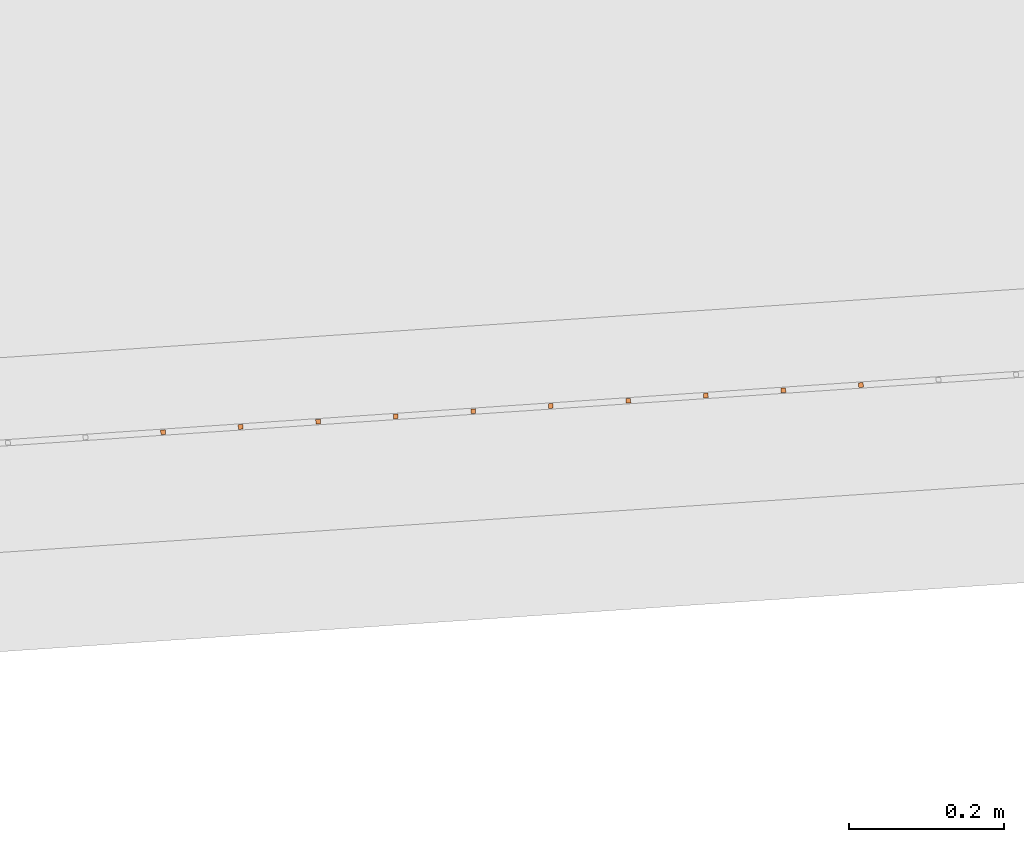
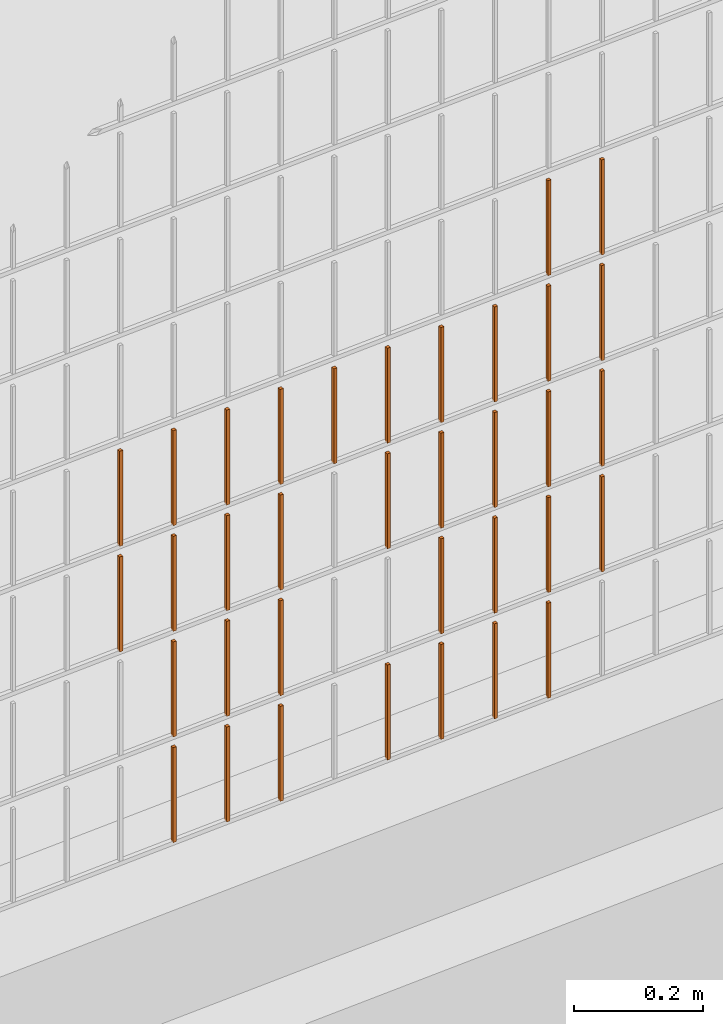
# One storey, part 259 of 1809: 35 proxies, 1 element without a shape of its own.
"""IFC2X3 building model written with IfcOpenShell, lengths in millimetres."""

from ifc_helpers import new_model, entity, si_unit, converted_unit, derived_unit, money_unit, direction, frame, origin_with_axes, place, context, subcontext, project, spatial, faceted_brep, source, transform, mapped, material, type_object, element, aggregate, save


model = new_model("IFC2X3")

# Units and contexts
model_context = context("Model", 3, precision=0.01, world=origin_with_axes(), true_north=direction((0.0, 1.0)))
body_context = subcontext(model_context, "Body", "Model", "MODEL_VIEW")
ifc_project = project(units=[si_unit("LENGTHUNIT", "METRE", prefix="MILLI"), si_unit("AREAUNIT", "SQUARE_METRE"), si_unit("VOLUMEUNIT", "CUBIC_METRE"), converted_unit("PLANEANGLEUNIT", "DEGREE", entity("IfcPlaneAngleMeasure", 0.0174532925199), si_unit("PLANEANGLEUNIT", "RADIAN"), dimensions=[0, 0, 0, 0, 0, 0, 0]), si_unit("SOLIDANGLEUNIT", "STERADIAN"), money_unit("EUR"), converted_unit("TIMEUNIT", "Year", entity("IfcTimeMeasure", 31556926.0), si_unit("TIMEUNIT", "SECOND"), dimensions=[0, 0, 1, 0, 0, 0, 0]), si_unit("MASSUNIT", "GRAM", prefix="KILO"), si_unit("THERMODYNAMICTEMPERATUREUNIT", "DEGREE_CELSIUS"), si_unit("LUMINOUSINTENSITYUNIT", "LUMEN"), si_unit("ENERGYUNIT", "JOULE", prefix="MEGA"), derived_unit("THERMALCONDUCTANCEUNIT", [(si_unit("POWERUNIT", "WATT"), 1), (si_unit("LENGTHUNIT", "METRE"), -1), (si_unit("THERMODYNAMICTEMPERATUREUNIT", "KELVIN"), -1)]), derived_unit("SPECIFICHEATCAPACITYUNIT", [(si_unit("ENERGYUNIT", "JOULE"), 1), (si_unit("MASSUNIT", "GRAM", prefix="KILO"), -1), (si_unit("THERMODYNAMICTEMPERATUREUNIT", "KELVIN"), -1)]), derived_unit("MASSDENSITYUNIT", [(si_unit("MASSUNIT", "GRAM", prefix="KILO"), 1), (si_unit("VOLUMEUNIT", "CUBIC_METRE"), -1)])], contexts=[model_context])

# Site, building, storey
site_placement = place(None, origin_with_axes())
site = spatial("IfcSite", under=ifc_project, at=site_placement, Name="Politse- ja Piirivalveameti ning Päästeameti ühishoone", CompositionType="ELEMENT")
building_placement = place(site_placement, origin_with_axes())
building = spatial("IfcBuilding", under=site, at=building_placement, Name="Politse- ja Piirivalveameti ning Päästeameti ühishoone", CompositionType="ELEMENT")
storey_placement = place(building_placement, origin_with_axes())
storey = spatial("IfcBuildingStorey", under=building, at=storey_placement, Name="Esimene korrus", CompositionType="ELEMENT", Elevation=0.0)

# Proxies
building_element_proxy_type_1 = type_object("IfcBuildingElementProxyType", Name="Railing Type", PredefinedType="NOTDEFINED")
proxy_1_placement = place(storey_placement, frame((89252.001212, -29183.4766571, 203.661247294), z_axis=(0.0, 0.0, 1.0), x_axis=(1.0, 0.0, 0.0)))
proxy_1 = element("IfcBuildingElementProxy", 1, at=proxy_1_placement, inside=storey, type_object=building_element_proxy_type_1, Name="PIIRDEAED")
ifc_material = material(Name="ET-03_Raud")
building_element_proxy_type_2 = type_object("IfcBuildingElementProxyType", Name="IfcBuildingElementProxy", PredefinedType="NOTDEFINED")
shared_shape_1 = source(origin_with_axes(), body_context, "Body", "Brep", [
    faceted_brep([(3.0, 3.0, -0.000752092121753), (-3.0, 3.0, -0.000752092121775), (-3.0, 3.0, 179.99926046), (3.0, 3.0, 179.99926046), (3.0, -3.0, 0.000752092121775), (-3.0, -3.0, 0.000752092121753), (-3.0, -3.0, 180.000764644), (3.0, -3.0, 180.000764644)], [[[0, 1, 2, 3]], [[0, 4, 5, 1]], [[1, 5, 6, 2]], [[3, 2, 6, 7]], [[4, 0, 3, 7]], [[5, 4, 7, 6]]]),
])
proxy_2_placement = place(proxy_1_placement, frame((-58293.8566608, -21235.304786, 12.5869682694), z_axis=(0.0, 0.0, 1.0), x_axis=(1.0, 0.0, 0.0)))
proxy_2 = element("IfcBuildingElementProxy", 2, at=proxy_2_placement, type_object=building_element_proxy_type_2, material=ifc_material, Name="BALUSTER - 001", context=body_context, shape_type="MappedRepresentation", body=[
    mapped(shared_shape_1, transform((0.0, 0.0, 0.0), x_axis=(-0.0673926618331, 0.997726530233, 0.0), y_axis=(-0.997726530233, -0.0673926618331, 0.0), z_axis=(0.0, 0.0, 1.0))),
])
shared_shape_2 = source(origin_with_axes(), body_context, "Body", "Brep", [
    faceted_brep([(3.0, 3.0, -0.000752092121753), (-3.0, 3.0, -0.000752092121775), (-3.0, 3.0, 179.99926046), (3.0, 3.0, 179.99926046), (3.0, -3.0, 0.000752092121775), (-3.0, -3.0, 0.000752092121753), (-3.0, -3.0, 180.000764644), (3.0, -3.0, 180.000764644)], [[[0, 1, 2, 3]], [[0, 4, 5, 1]], [[1, 5, 6, 2]], [[3, 2, 6, 7]], [[4, 0, 3, 7]], [[5, 4, 7, 6]]]),
])
proxy_3_placement = place(proxy_1_placement, frame((-58393.6293138, -21242.0440521, 12.561898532), z_axis=(0.0, 0.0, 1.0), x_axis=(1.0, 0.0, 0.0)))
proxy_3 = element("IfcBuildingElementProxy", 3, at=proxy_3_placement, type_object=building_element_proxy_type_2, material=ifc_material, Name="BALUSTER - 001", context=body_context, shape_type="MappedRepresentation", body=[
    mapped(shared_shape_2, transform((0.0, 0.0, 0.0), x_axis=(-0.0673926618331, 0.997726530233, 0.0), y_axis=(-0.997726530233, -0.0673926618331, 0.0), z_axis=(0.0, 0.0, 1.0))),
])
proxy_4_placement = place(proxy_1_placement, frame((-58493.4019668, -21248.7833183, 12.5368287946), z_axis=(0.0, 0.0, 1.0), x_axis=(1.0, 0.0, 0.0)))
proxy_4 = element("IfcBuildingElementProxy", 4, at=proxy_4_placement, type_object=building_element_proxy_type_2, material=ifc_material, Name="BALUSTER - 001", context=body_context, shape_type="MappedRepresentation", body=[
    mapped(shared_shape_2, transform((0.0, 0.0, 0.0), x_axis=(-0.0673926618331, 0.997726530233, 0.0), y_axis=(-0.997726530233, -0.0673926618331, 0.0), z_axis=(0.0, 0.0, 1.0))),
])
shared_shape_3 = source(origin_with_axes(), body_context, "Body", "Brep", [
    faceted_brep([(3.0, 3.0, -0.000752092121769), (-3.0, 3.0, -0.000752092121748), (-3.0, 3.0, 179.99926046), (3.0, 3.0, 179.99926046), (3.0, -3.0, 0.000752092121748), (-3.0, -3.0, 0.000752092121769), (-3.0, -3.0, 180.000764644), (3.0, -3.0, 180.000764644)], [[[0, 1, 2, 3]], [[0, 4, 5, 1]], [[1, 5, 6, 2]], [[3, 2, 6, 7]], [[4, 0, 3, 7]], [[5, 4, 7, 6]]]),
])
proxy_5_placement = place(proxy_1_placement, frame((-58593.1746199, -21255.5225845, 12.5117590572), z_axis=(0.0, 0.0, 1.0), x_axis=(1.0, 0.0, 0.0)))
proxy_5 = element("IfcBuildingElementProxy", 5, at=proxy_5_placement, type_object=building_element_proxy_type_2, material=ifc_material, Name="BALUSTER - 001", context=body_context, shape_type="MappedRepresentation", body=[
    mapped(shared_shape_3, transform((0.0, 0.0, 0.0), x_axis=(-0.0673926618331, 0.997726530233, 0.0), y_axis=(-0.997726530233, -0.0673926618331, 0.0), z_axis=(0.0, 0.0, 1.0))),
])
shared_shape_4 = source(origin_with_axes(), body_context, "Body", "Brep", [
    faceted_brep([(3.0, 3.0, -0.000752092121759), (-3.0, 3.0, -0.000752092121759), (-3.0, 3.0, 179.99926046), (3.0, 3.0, 179.99926046), (3.0, -3.0, 0.000752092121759), (-3.0, -3.0, 0.000752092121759), (-3.0, -3.0, 180.000764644), (3.0, -3.0, 180.000764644)], [[[0, 1, 2, 3]], [[0, 4, 5, 1]], [[1, 5, 6, 2]], [[3, 2, 6, 7]], [[4, 0, 3, 7]], [[5, 4, 7, 6]]]),
])
proxy_6_placement = place(proxy_1_placement, frame((-58792.7199259, -21269.0011169, 12.4616195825), z_axis=(0.0, 0.0, 1.0), x_axis=(1.0, 0.0, 0.0)))
proxy_6 = element("IfcBuildingElementProxy", 6, at=proxy_6_placement, type_object=building_element_proxy_type_2, material=ifc_material, Name="BALUSTER - 001", context=body_context, shape_type="MappedRepresentation", body=[
    mapped(shared_shape_4, transform((0.0, 0.0, 0.0), x_axis=(-0.0673926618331, 0.997726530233, 0.0), y_axis=(-0.997726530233, -0.0673926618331, 0.0), z_axis=(0.0, 0.0, 1.0))),
])
proxy_7_placement = place(proxy_1_placement, frame((-58792.7199259, -21269.0011169, 212.461619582), z_axis=(0.0, 0.0, 1.0), x_axis=(1.0, 0.0, 0.0)))
proxy_7 = element("IfcBuildingElementProxy", 7, at=proxy_7_placement, type_object=building_element_proxy_type_2, material=ifc_material, Name="BALUSTER - 001", context=body_context, shape_type="MappedRepresentation", body=[
    mapped(shared_shape_4, transform((0.0, 0.0, 0.0), x_axis=(-0.0673926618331, 0.997726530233, 0.0), y_axis=(-0.997726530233, -0.0673926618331, 0.0), z_axis=(0.0, 0.0, 1.0))),
])
shared_shape_5 = source(origin_with_axes(), body_context, "Body", "Brep", [
    faceted_brep([(3.0, 3.0, -0.000752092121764), (-3.0, 3.0, -0.000752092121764), (-3.0, 3.0, 179.99926046), (3.0, 3.0, 179.99926046), (3.0, -3.0, 0.000752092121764), (-3.0, -3.0, 0.000752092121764), (-3.0, -3.0, 180.000764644), (3.0, -3.0, 180.000764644)], [[[0, 1, 2, 3]], [[0, 4, 5, 1]], [[1, 5, 6, 2]], [[3, 2, 6, 7]], [[4, 0, 3, 7]], [[5, 4, 7, 6]]]),
])
proxy_8_placement = place(proxy_1_placement, frame((-58892.4925789, -21275.7403831, 12.4365498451), z_axis=(0.0, 0.0, 1.0), x_axis=(1.0, 0.0, 0.0)))
proxy_8 = element("IfcBuildingElementProxy", 8, at=proxy_8_placement, type_object=building_element_proxy_type_2, material=ifc_material, Name="BALUSTER - 001", context=body_context, shape_type="MappedRepresentation", body=[
    mapped(shared_shape_5, transform((0.0, 0.0, 0.0), x_axis=(-0.0673926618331, 0.997726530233, 0.0), y_axis=(-0.997726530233, -0.0673926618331, 0.0), z_axis=(0.0, 0.0, 1.0))),
])
shared_shape_6 = source(origin_with_axes(), body_context, "Body", "Brep", [
    faceted_brep([(3.0, 3.0, -0.000752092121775), (-3.0, 3.0, -0.000752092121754), (-3.0, 3.0, 179.99926046), (3.0, 3.0, 179.99926046), (3.0, -3.0, 0.000752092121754), (-3.0, -3.0, 0.000752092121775), (-3.0, -3.0, 180.000764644), (3.0, -3.0, 180.000764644)], [[[0, 1, 2, 3]], [[0, 4, 5, 1]], [[1, 5, 6, 2]], [[3, 2, 6, 7]], [[4, 0, 3, 7]], [[5, 4, 7, 6]]]),
])
proxy_9_placement = place(proxy_1_placement, frame((-58992.265232, -21282.4796492, 12.4114801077), z_axis=(0.0, 0.0, 1.0), x_axis=(1.0, 0.0, 0.0)))
proxy_9 = element("IfcBuildingElementProxy", 9, at=proxy_9_placement, type_object=building_element_proxy_type_2, material=ifc_material, Name="BALUSTER - 001", context=body_context, shape_type="MappedRepresentation", body=[
    mapped(shared_shape_6, transform((0.0, 0.0, 0.0), x_axis=(-0.0673926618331, 0.997726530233, 0.0), y_axis=(-0.997726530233, -0.0673926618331, 0.0), z_axis=(0.0, 0.0, 1.0))),
])
shared_shape_7 = source(origin_with_axes(), body_context, "Body", "Brep", [
    faceted_brep([(3.0, 3.0, -0.000752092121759), (-3.0, 3.0, -0.000752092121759), (-3.0, 3.0, 179.99926046), (3.0, 3.0, 179.99926046), (3.0, -3.0, 0.000752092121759), (-3.0, -3.0, 0.000752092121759), (-3.0, -3.0, 180.000764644), (3.0, -3.0, 180.000764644)], [[[0, 1, 2, 3]], [[0, 4, 5, 1]], [[1, 5, 6, 2]], [[3, 2, 6, 7]], [[4, 0, 3, 7]], [[5, 4, 7, 6]]]),
])
proxy_10_placement = place(proxy_1_placement, frame((-58194.0840078, -21228.5655198, 212.612038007), z_axis=(0.0, 0.0, 1.0), x_axis=(1.0, 0.0, 0.0)))
proxy_10 = element("IfcBuildingElementProxy", 10, at=proxy_10_placement, type_object=building_element_proxy_type_2, material=ifc_material, Name="BALUSTER - 001", context=body_context, shape_type="MappedRepresentation", body=[
    mapped(shared_shape_7, transform((0.0, 0.0, 0.0), x_axis=(-0.0673926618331, 0.997726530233, 0.0), y_axis=(-0.997726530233, -0.0673926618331, 0.0), z_axis=(0.0, 0.0, 1.0))),
])
shared_shape_8 = source(origin_with_axes(), body_context, "Body", "Brep", [
    faceted_brep([(3.0, 3.0, -0.000752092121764), (-3.0, 3.0, -0.000752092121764), (-3.0, 3.0, 179.99926046), (3.0, 3.0, 179.99926046), (3.0, -3.0, 0.000752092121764), (-3.0, -3.0, 0.000752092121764), (-3.0, -3.0, 180.000764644), (3.0, -3.0, 180.000764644)], [[[0, 1, 2, 3]], [[0, 4, 5, 1]], [[1, 5, 6, 2]], [[3, 2, 6, 7]], [[4, 0, 3, 7]], [[5, 4, 7, 6]]]),
])
proxy_11_placement = place(proxy_1_placement, frame((-58892.4925789, -21275.7403831, 212.436549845), z_axis=(0.0, 0.0, 1.0), x_axis=(1.0, 0.0, 0.0)))
proxy_11 = element("IfcBuildingElementProxy", 11, at=proxy_11_placement, type_object=building_element_proxy_type_2, material=ifc_material, Name="BALUSTER - 001", context=body_context, shape_type="MappedRepresentation", body=[
    mapped(shared_shape_8, transform((0.0, 0.0, 0.0), x_axis=(-0.0673926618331, 0.997726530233, 0.0), y_axis=(-0.997726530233, -0.0673926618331, 0.0), z_axis=(0.0, 0.0, 1.0))),
])
shared_shape_9 = source(origin_with_axes(), body_context, "Body", "Brep", [
    faceted_brep([(3.0, 3.0, -0.000752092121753), (-3.0, 3.0, -0.000752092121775), (-3.0, 3.0, 179.99926046), (3.0, 3.0, 179.99926046), (3.0, -3.0, 0.000752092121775), (-3.0, -3.0, 0.000752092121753), (-3.0, -3.0, 180.000764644), (3.0, -3.0, 180.000764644)], [[[0, 1, 2, 3]], [[0, 4, 5, 1]], [[1, 5, 6, 2]], [[3, 2, 6, 7]], [[4, 0, 3, 7]], [[5, 4, 7, 6]]]),
])
proxy_12_placement = place(proxy_1_placement, frame((-58293.8566608, -21235.304786, 212.586968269), z_axis=(0.0, 0.0, 1.0), x_axis=(1.0, 0.0, 0.0)))
proxy_12 = element("IfcBuildingElementProxy", 12, at=proxy_12_placement, type_object=building_element_proxy_type_2, material=ifc_material, Name="BALUSTER - 001", context=body_context, shape_type="MappedRepresentation", body=[
    mapped(shared_shape_9, transform((0.0, 0.0, 0.0), x_axis=(-0.0673926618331, 0.997726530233, 0.0), y_axis=(-0.997726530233, -0.0673926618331, 0.0), z_axis=(0.0, 0.0, 1.0))),
])
proxy_13_placement = place(proxy_1_placement, frame((-58293.8566608, -21235.304786, 412.586968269), z_axis=(0.0, 0.0, 1.0), x_axis=(1.0, 0.0, 0.0)))
proxy_13 = element("IfcBuildingElementProxy", 13, at=proxy_13_placement, type_object=building_element_proxy_type_2, material=ifc_material, Name="BALUSTER - 001", context=body_context, shape_type="MappedRepresentation", body=[
    mapped(shared_shape_9, transform((0.0, 0.0, 0.0), x_axis=(-0.0673926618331, 0.997726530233, 0.0), y_axis=(-0.997726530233, -0.0673926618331, 0.0), z_axis=(0.0, 0.0, 1.0))),
])
shared_shape_10 = source(origin_with_axes(), body_context, "Body", "Brep", [
    faceted_brep([(3.0, 3.0, -0.000752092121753), (-3.0, 3.0, -0.000752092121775), (-3.0, 3.0, 179.99926046), (3.0, 3.0, 179.99926046), (3.0, -3.0, 0.000752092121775), (-3.0, -3.0, 0.000752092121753), (-3.0, -3.0, 180.000764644), (3.0, -3.0, 180.000764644)], [[[0, 1, 2, 3]], [[0, 4, 5, 1]], [[1, 5, 6, 2]], [[3, 2, 6, 7]], [[4, 0, 3, 7]], [[5, 4, 7, 6]]]),
])
proxy_14_placement = place(proxy_1_placement, frame((-58393.6293138, -21242.0440521, 212.561898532), z_axis=(0.0, 0.0, 1.0), x_axis=(1.0, 0.0, 0.0)))
proxy_14 = element("IfcBuildingElementProxy", 14, at=proxy_14_placement, type_object=building_element_proxy_type_2, material=ifc_material, Name="BALUSTER - 001", context=body_context, shape_type="MappedRepresentation", body=[
    mapped(shared_shape_10, transform((0.0, 0.0, 0.0), x_axis=(-0.0673926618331, 0.997726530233, 0.0), y_axis=(-0.997726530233, -0.0673926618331, 0.0), z_axis=(0.0, 0.0, 1.0))),
])
shared_shape_11 = source(origin_with_axes(), body_context, "Body", "Brep", [
    faceted_brep([(3.0, 3.0, -0.000752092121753), (-3.0, 3.0, -0.000752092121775), (-3.0, 3.0, 179.99926046), (3.0, 3.0, 179.99926046), (3.0, -3.0, 0.000752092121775), (-3.0, -3.0, 0.000752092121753), (-3.0, -3.0, 180.000764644), (3.0, -3.0, 180.000764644)], [[[0, 1, 2, 3]], [[0, 4, 5, 1]], [[1, 5, 6, 2]], [[3, 2, 6, 7]], [[4, 0, 3, 7]], [[5, 4, 7, 6]]]),
])
proxy_15_placement = place(proxy_1_placement, frame((-58493.4019668, -21248.7833183, 212.536828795), z_axis=(0.0, 0.0, 1.0), x_axis=(1.0, 0.0, 0.0)))
proxy_15 = element("IfcBuildingElementProxy", 15, at=proxy_15_placement, type_object=building_element_proxy_type_2, material=ifc_material, Name="BALUSTER - 001", context=body_context, shape_type="MappedRepresentation", body=[
    mapped(shared_shape_11, transform((0.0, 0.0, 0.0), x_axis=(-0.0673926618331, 0.997726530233, 0.0), y_axis=(-0.997726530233, -0.0673926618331, 0.0), z_axis=(0.0, 0.0, 1.0))),
])
proxy_16_placement = place(proxy_1_placement, frame((-58393.6293138, -21242.0440521, 412.561898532), z_axis=(0.0, 0.0, 1.0), x_axis=(1.0, 0.0, 0.0)))
proxy_16 = element("IfcBuildingElementProxy", 16, at=proxy_16_placement, type_object=building_element_proxy_type_2, material=ifc_material, Name="BALUSTER - 001", context=body_context, shape_type="MappedRepresentation", body=[
    mapped(shared_shape_11, transform((0.0, 0.0, 0.0), x_axis=(-0.0673926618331, 0.997726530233, 0.0), y_axis=(-0.997726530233, -0.0673926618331, 0.0), z_axis=(0.0, 0.0, 1.0))),
])
proxy_17_placement = place(proxy_1_placement, frame((-58493.4019668, -21248.7833183, 412.536828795), z_axis=(0.0, 0.0, 1.0), x_axis=(1.0, 0.0, 0.0)))
proxy_17 = element("IfcBuildingElementProxy", 17, at=proxy_17_placement, type_object=building_element_proxy_type_2, material=ifc_material, Name="BALUSTER - 001", context=body_context, shape_type="MappedRepresentation", body=[
    mapped(shared_shape_11, transform((0.0, 0.0, 0.0), x_axis=(-0.0673926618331, 0.997726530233, 0.0), y_axis=(-0.997726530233, -0.0673926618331, 0.0), z_axis=(0.0, 0.0, 1.0))),
])
proxy_18_placement = place(proxy_1_placement, frame((-58393.6293138, -21242.0440521, 612.561898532), z_axis=(0.0, 0.0, 1.0), x_axis=(1.0, 0.0, 0.0)))
proxy_18 = element("IfcBuildingElementProxy", 18, at=proxy_18_placement, type_object=building_element_proxy_type_2, material=ifc_material, Name="BALUSTER - 001", context=body_context, shape_type="MappedRepresentation", body=[
    mapped(shared_shape_11, transform((0.0, 0.0, 0.0), x_axis=(-0.0673926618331, 0.997726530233, 0.0), y_axis=(-0.997726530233, -0.0673926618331, 0.0), z_axis=(0.0, 0.0, 1.0))),
])
proxy_19_placement = place(proxy_1_placement, frame((-58493.4019668, -21248.7833183, 612.536828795), z_axis=(0.0, 0.0, 1.0), x_axis=(1.0, 0.0, 0.0)))
proxy_19 = element("IfcBuildingElementProxy", 19, at=proxy_19_placement, type_object=building_element_proxy_type_2, material=ifc_material, Name="BALUSTER - 001", context=body_context, shape_type="MappedRepresentation", body=[
    mapped(shared_shape_11, transform((0.0, 0.0, 0.0), x_axis=(-0.0673926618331, 0.997726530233, 0.0), y_axis=(-0.997726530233, -0.0673926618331, 0.0), z_axis=(0.0, 0.0, 1.0))),
])
shared_shape_12 = source(origin_with_axes(), body_context, "Body", "Brep", [
    faceted_brep([(3.0, 3.0, -0.000752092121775), (-3.0, 3.0, -0.000752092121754), (-3.0, 3.0, 179.99926046), (3.0, 3.0, 179.99926046), (3.0, -3.0, 0.000752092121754), (-3.0, -3.0, 0.000752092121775), (-3.0, -3.0, 180.000764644), (3.0, -3.0, 180.000764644)], [[[0, 1, 2, 3]], [[0, 4, 5, 1]], [[1, 5, 6, 2]], [[3, 2, 6, 7]], [[4, 0, 3, 7]], [[5, 4, 7, 6]]]),
])
proxy_20_placement = place(proxy_1_placement, frame((-58992.265232, -21282.4796492, 212.411480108), z_axis=(0.0, 0.0, 1.0), x_axis=(1.0, 0.0, 0.0)))
proxy_20 = element("IfcBuildingElementProxy", 20, at=proxy_20_placement, type_object=building_element_proxy_type_2, material=ifc_material, Name="BALUSTER - 001", context=body_context, shape_type="MappedRepresentation", body=[
    mapped(shared_shape_12, transform((0.0, 0.0, 0.0), x_axis=(-0.0673926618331, 0.997726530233, 0.0), y_axis=(-0.997726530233, -0.0673926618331, 0.0), z_axis=(0.0, 0.0, 1.0))),
])
proxy_21_placement = place(proxy_1_placement, frame((-58992.265232, -21282.4796492, 412.411480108), z_axis=(0.0, 0.0, 1.0), x_axis=(1.0, 0.0, 0.0)))
proxy_21 = element("IfcBuildingElementProxy", 21, at=proxy_21_placement, type_object=building_element_proxy_type_2, material=ifc_material, Name="BALUSTER - 001", context=body_context, shape_type="MappedRepresentation", body=[
    mapped(shared_shape_12, transform((0.0, 0.0, 0.0), x_axis=(-0.0673926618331, 0.997726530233, 0.0), y_axis=(-0.997726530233, -0.0673926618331, 0.0), z_axis=(0.0, 0.0, 1.0))),
])
shared_shape_13 = source(origin_with_axes(), body_context, "Body", "Brep", [
    faceted_brep([(3.0, 3.0, -0.000752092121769), (-3.0, 3.0, -0.000752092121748), (-3.0, 3.0, 179.99926046), (3.0, 3.0, 179.99926046), (3.0, -3.0, 0.000752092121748), (-3.0, -3.0, 0.000752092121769), (-3.0, -3.0, 180.000764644), (3.0, -3.0, 180.000764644)], [[[0, 1, 2, 3]], [[0, 4, 5, 1]], [[1, 5, 6, 2]], [[3, 2, 6, 7]], [[4, 0, 3, 7]], [[5, 4, 7, 6]]]),
])
proxy_22_placement = place(proxy_1_placement, frame((-58593.1746199, -21255.5225845, 412.511759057), z_axis=(0.0, 0.0, 1.0), x_axis=(1.0, 0.0, 0.0)))
proxy_22 = element("IfcBuildingElementProxy", 22, at=proxy_22_placement, type_object=building_element_proxy_type_2, material=ifc_material, Name="BALUSTER - 001", context=body_context, shape_type="MappedRepresentation", body=[
    mapped(shared_shape_13, transform((0.0, 0.0, 0.0), x_axis=(-0.0673926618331, 0.997726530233, 0.0), y_axis=(-0.997726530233, -0.0673926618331, 0.0), z_axis=(0.0, 0.0, 1.0))),
])
shared_shape_14 = source(origin_with_axes(), body_context, "Body", "Brep", [
    faceted_brep([(3.0, 3.0, -0.000752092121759), (-3.0, 3.0, -0.000752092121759), (-3.0, 3.0, 179.99926046), (3.0, 3.0, 179.99926046), (3.0, -3.0, 0.000752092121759), (-3.0, -3.0, 0.000752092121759), (-3.0, -3.0, 180.000764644), (3.0, -3.0, 180.000764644)], [[[0, 1, 2, 3]], [[0, 4, 5, 1]], [[1, 5, 6, 2]], [[3, 2, 6, 7]], [[4, 0, 3, 7]], [[5, 4, 7, 6]]]),
])
proxy_23_placement = place(proxy_1_placement, frame((-58194.0840078, -21228.5655198, 412.612038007), z_axis=(0.0, 0.0, 1.0), x_axis=(1.0, 0.0, 0.0)))
proxy_23 = element("IfcBuildingElementProxy", 23, at=proxy_23_placement, type_object=building_element_proxy_type_2, material=ifc_material, Name="BALUSTER - 001", context=body_context, shape_type="MappedRepresentation", body=[
    mapped(shared_shape_14, transform((0.0, 0.0, 0.0), x_axis=(-0.0673926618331, 0.997726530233, 0.0), y_axis=(-0.997726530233, -0.0673926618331, 0.0), z_axis=(0.0, 0.0, 1.0))),
])
shared_shape_15 = source(origin_with_axes(), body_context, "Body", "Brep", [
    faceted_brep([(3.0, 3.0, -0.000752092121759), (-3.0, 3.0, -0.000752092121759), (-3.0, 3.0, 179.99926046), (3.0, 3.0, 179.99926046), (3.0, -3.0, 0.000752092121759), (-3.0, -3.0, 0.000752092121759), (-3.0, -3.0, 180.000764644), (3.0, -3.0, 180.000764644)], [[[0, 1, 2, 3]], [[0, 4, 5, 1]], [[1, 5, 6, 2]], [[3, 2, 6, 7]], [[4, 0, 3, 7]], [[5, 4, 7, 6]]]),
])
proxy_24_placement = place(proxy_1_placement, frame((-58792.7199259, -21269.0011169, 412.461619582), z_axis=(0.0, 0.0, 1.0), x_axis=(1.0, 0.0, 0.0)))
proxy_24 = element("IfcBuildingElementProxy", 24, at=proxy_24_placement, type_object=building_element_proxy_type_2, material=ifc_material, Name="BALUSTER - 001", context=body_context, shape_type="MappedRepresentation", body=[
    mapped(shared_shape_15, transform((0.0, 0.0, 0.0), x_axis=(-0.0673926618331, 0.997726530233, 0.0), y_axis=(-0.997726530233, -0.0673926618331, 0.0), z_axis=(0.0, 0.0, 1.0))),
])
shared_shape_16 = source(origin_with_axes(), body_context, "Body", "Brep", [
    faceted_brep([(3.0, 3.0, -0.000752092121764), (-3.0, 3.0, -0.000752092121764), (-3.0, 3.0, 179.99926046), (3.0, 3.0, 179.99926046), (3.0, -3.0, 0.000752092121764), (-3.0, -3.0, 0.000752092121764), (-3.0, -3.0, 180.000764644), (3.0, -3.0, 180.000764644)], [[[0, 1, 2, 3]], [[0, 4, 5, 1]], [[1, 5, 6, 2]], [[3, 2, 6, 7]], [[4, 0, 3, 7]], [[5, 4, 7, 6]]]),
])
proxy_25_placement = place(proxy_1_placement, frame((-58892.4925789, -21275.7403831, 412.436549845), z_axis=(0.0, 0.0, 1.0), x_axis=(1.0, 0.0, 0.0)))
proxy_25 = element("IfcBuildingElementProxy", 25, at=proxy_25_placement, type_object=building_element_proxy_type_2, material=ifc_material, Name="BALUSTER - 001", context=body_context, shape_type="MappedRepresentation", body=[
    mapped(shared_shape_16, transform((0.0, 0.0, 0.0), x_axis=(-0.0673926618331, 0.997726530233, 0.0), y_axis=(-0.997726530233, -0.0673926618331, 0.0), z_axis=(0.0, 0.0, 1.0))),
])
shared_shape_17 = source(origin_with_axes(), body_context, "Body", "Brep", [
    faceted_brep([(3.0, 3.0, -0.000752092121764), (-3.0, 3.0, -0.000752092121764), (-3.0, 3.0, 179.99926046), (3.0, 3.0, 179.99926046), (3.0, -3.0, 0.000752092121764), (-3.0, -3.0, 0.000752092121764), (-3.0, -3.0, 180.000764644), (3.0, -3.0, 180.000764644)], [[[0, 1, 2, 3]], [[0, 4, 5, 1]], [[1, 5, 6, 2]], [[3, 2, 6, 7]], [[4, 0, 3, 7]], [[5, 4, 7, 6]]]),
])
proxy_26_placement = place(proxy_1_placement, frame((-59092.037885, -21289.2189154, 412.38641037), z_axis=(0.0, 0.0, 1.0), x_axis=(1.0, 0.0, 0.0)))
proxy_26 = element("IfcBuildingElementProxy", 26, at=proxy_26_placement, type_object=building_element_proxy_type_2, material=ifc_material, Name="BALUSTER - 001", context=body_context, shape_type="MappedRepresentation", body=[
    mapped(shared_shape_17, transform((0.0, 0.0, 0.0), x_axis=(-0.0673926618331, 0.997726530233, 0.0), y_axis=(-0.997726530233, -0.0673926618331, 0.0), z_axis=(0.0, 0.0, 1.0))),
])
proxy_27_placement = place(proxy_1_placement, frame((-59092.037885, -21289.2189154, 612.38641037), z_axis=(0.0, 0.0, 1.0), x_axis=(1.0, 0.0, 0.0)))
proxy_27 = element("IfcBuildingElementProxy", 27, at=proxy_27_placement, type_object=building_element_proxy_type_2, material=ifc_material, Name="BALUSTER - 001", context=body_context, shape_type="MappedRepresentation", body=[
    mapped(shared_shape_17, transform((0.0, 0.0, 0.0), x_axis=(-0.0673926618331, 0.997726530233, 0.0), y_axis=(-0.997726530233, -0.0673926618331, 0.0), z_axis=(0.0, 0.0, 1.0))),
])
shared_shape_18 = source(origin_with_axes(), body_context, "Body", "Brep", [
    faceted_brep([(3.0, 3.0, -0.000752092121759), (-3.0, 3.0, -0.000752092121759), (-3.0, 3.0, 179.99926046), (3.0, 3.0, 179.99926046), (3.0, -3.0, 0.000752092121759), (-3.0, -3.0, 0.000752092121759), (-3.0, -3.0, 180.000764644), (3.0, -3.0, 180.000764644)], [[[0, 1, 2, 3]], [[0, 4, 5, 1]], [[1, 5, 6, 2]], [[3, 2, 6, 7]], [[4, 0, 3, 7]], [[5, 4, 7, 6]]]),
])
proxy_28_placement = place(proxy_1_placement, frame((-58194.0840078, -21228.5655198, 612.612038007), z_axis=(0.0, 0.0, 1.0), x_axis=(1.0, 0.0, 0.0)))
proxy_28 = element("IfcBuildingElementProxy", 28, at=proxy_28_placement, type_object=building_element_proxy_type_2, material=ifc_material, Name="BALUSTER - 001", context=body_context, shape_type="MappedRepresentation", body=[
    mapped(shared_shape_18, transform((0.0, 0.0, 0.0), x_axis=(-0.0673926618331, 0.997726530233, 0.0), y_axis=(-0.997726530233, -0.0673926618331, 0.0), z_axis=(0.0, 0.0, 1.0))),
])
shared_shape_19 = source(origin_with_axes(), body_context, "Body", "Brep", [
    faceted_brep([(3.0, 3.0, -0.000752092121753), (-3.0, 3.0, -0.000752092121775), (-3.0, 3.0, 179.99926046), (3.0, 3.0, 179.99926046), (3.0, -3.0, 0.000752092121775), (-3.0, -3.0, 0.000752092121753), (-3.0, -3.0, 180.000764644), (3.0, -3.0, 180.000764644)], [[[0, 1, 2, 3]], [[0, 4, 5, 1]], [[1, 5, 6, 2]], [[3, 2, 6, 7]], [[4, 0, 3, 7]], [[5, 4, 7, 6]]]),
])
proxy_29_placement = place(proxy_1_placement, frame((-58293.8566608, -21235.304786, 612.586968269), z_axis=(0.0, 0.0, 1.0), x_axis=(1.0, 0.0, 0.0)))
proxy_29 = element("IfcBuildingElementProxy", 29, at=proxy_29_placement, type_object=building_element_proxy_type_2, material=ifc_material, Name="BALUSTER - 001", context=body_context, shape_type="MappedRepresentation", body=[
    mapped(shared_shape_19, transform((0.0, 0.0, 0.0), x_axis=(-0.0673926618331, 0.997726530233, 0.0), y_axis=(-0.997726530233, -0.0673926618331, 0.0), z_axis=(0.0, 0.0, 1.0))),
])
shared_shape_20 = source(origin_with_axes(), body_context, "Body", "Brep", [
    faceted_brep([(3.0, 3.0, -0.000752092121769), (-3.0, 3.0, -0.000752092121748), (-3.0, 3.0, 179.99926046), (3.0, 3.0, 179.99926046), (3.0, -3.0, 0.000752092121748), (-3.0, -3.0, 0.000752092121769), (-3.0, -3.0, 180.000764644), (3.0, -3.0, 180.000764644)], [[[0, 1, 2, 3]], [[0, 4, 5, 1]], [[1, 5, 6, 2]], [[3, 2, 6, 7]], [[4, 0, 3, 7]], [[5, 4, 7, 6]]]),
])
proxy_30_placement = place(proxy_1_placement, frame((-58593.1746199, -21255.5225845, 612.511759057), z_axis=(0.0, 0.0, 1.0), x_axis=(1.0, 0.0, 0.0)))
proxy_30 = element("IfcBuildingElementProxy", 30, at=proxy_30_placement, type_object=building_element_proxy_type_2, material=ifc_material, Name="BALUSTER - 001", context=body_context, shape_type="MappedRepresentation", body=[
    mapped(shared_shape_20, transform((0.0, 0.0, 0.0), x_axis=(-0.0673926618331, 0.997726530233, 0.0), y_axis=(-0.997726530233, -0.0673926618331, 0.0), z_axis=(0.0, 0.0, 1.0))),
])
shared_shape_21 = source(origin_with_axes(), body_context, "Body", "Brep", [
    faceted_brep([(3.0, 3.0, -0.000752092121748), (-3.0, 3.0, -0.00075209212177), (-3.0, 3.0, 179.99926046), (3.0, 3.0, 179.99926046), (3.0, -3.0, 0.00075209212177), (-3.0, -3.0, 0.000752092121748), (-3.0, -3.0, 180.000764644), (3.0, -3.0, 180.000764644)], [[[0, 1, 2, 3]], [[0, 4, 5, 1]], [[1, 5, 6, 2]], [[3, 2, 6, 7]], [[4, 0, 3, 7]], [[5, 4, 7, 6]]]),
])
proxy_31_placement = place(proxy_1_placement, frame((-58692.9472729, -21262.2618507, 612.48668932), z_axis=(0.0, 0.0, 1.0), x_axis=(1.0, 0.0, 0.0)))
proxy_31 = element("IfcBuildingElementProxy", 31, at=proxy_31_placement, type_object=building_element_proxy_type_2, material=ifc_material, Name="BALUSTER - 001", context=body_context, shape_type="MappedRepresentation", body=[
    mapped(shared_shape_21, transform((0.0, 0.0, 0.0), x_axis=(-0.0673926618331, 0.997726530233, 0.0), y_axis=(-0.997726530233, -0.0673926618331, 0.0), z_axis=(0.0, 0.0, 1.0))),
])
shared_shape_22 = source(origin_with_axes(), body_context, "Body", "Brep", [
    faceted_brep([(3.0, 3.0, -0.000752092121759), (-3.0, 3.0, -0.000752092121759), (-3.0, 3.0, 179.99926046), (3.0, 3.0, 179.99926046), (3.0, -3.0, 0.000752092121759), (-3.0, -3.0, 0.000752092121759), (-3.0, -3.0, 180.000764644), (3.0, -3.0, 180.000764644)], [[[0, 1, 2, 3]], [[0, 4, 5, 1]], [[1, 5, 6, 2]], [[3, 2, 6, 7]], [[4, 0, 3, 7]], [[5, 4, 7, 6]]]),
])
proxy_32_placement = place(proxy_1_placement, frame((-58792.7199259, -21269.0011169, 612.461619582), z_axis=(0.0, 0.0, 1.0), x_axis=(1.0, 0.0, 0.0)))
proxy_32 = element("IfcBuildingElementProxy", 32, at=proxy_32_placement, type_object=building_element_proxy_type_2, material=ifc_material, Name="BALUSTER - 001", context=body_context, shape_type="MappedRepresentation", body=[
    mapped(shared_shape_22, transform((0.0, 0.0, 0.0), x_axis=(-0.0673926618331, 0.997726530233, 0.0), y_axis=(-0.997726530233, -0.0673926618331, 0.0), z_axis=(0.0, 0.0, 1.0))),
])
shared_shape_23 = source(origin_with_axes(), body_context, "Body", "Brep", [
    faceted_brep([(3.0, 3.0, -0.000752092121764), (-3.0, 3.0, -0.000752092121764), (-3.0, 3.0, 179.99926046), (3.0, 3.0, 179.99926046), (3.0, -3.0, 0.000752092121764), (-3.0, -3.0, 0.000752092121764), (-3.0, -3.0, 180.000764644), (3.0, -3.0, 180.000764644)], [[[0, 1, 2, 3]], [[0, 4, 5, 1]], [[1, 5, 6, 2]], [[3, 2, 6, 7]], [[4, 0, 3, 7]], [[5, 4, 7, 6]]]),
])
proxy_33_placement = place(proxy_1_placement, frame((-58892.4925789, -21275.7403831, 612.436549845), z_axis=(0.0, 0.0, 1.0), x_axis=(1.0, 0.0, 0.0)))
proxy_33 = element("IfcBuildingElementProxy", 33, at=proxy_33_placement, type_object=building_element_proxy_type_2, material=ifc_material, Name="BALUSTER - 001", context=body_context, shape_type="MappedRepresentation", body=[
    mapped(shared_shape_23, transform((0.0, 0.0, 0.0), x_axis=(-0.0673926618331, 0.997726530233, 0.0), y_axis=(-0.997726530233, -0.0673926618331, 0.0), z_axis=(0.0, 0.0, 1.0))),
])
shared_shape_24 = source(origin_with_axes(), body_context, "Body", "Brep", [
    faceted_brep([(3.0, 3.0, -0.000752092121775), (-3.0, 3.0, -0.000752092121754), (-3.0, 3.0, 179.99926046), (3.0, 3.0, 179.99926046), (3.0, -3.0, 0.000752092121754), (-3.0, -3.0, 0.000752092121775), (-3.0, -3.0, 180.000764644), (3.0, -3.0, 180.000764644)], [[[0, 1, 2, 3]], [[0, 4, 5, 1]], [[1, 5, 6, 2]], [[3, 2, 6, 7]], [[4, 0, 3, 7]], [[5, 4, 7, 6]]]),
])
proxy_34_placement = place(proxy_1_placement, frame((-58992.265232, -21282.4796492, 612.411480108), z_axis=(0.0, 0.0, 1.0), x_axis=(1.0, 0.0, 0.0)))
proxy_34 = element("IfcBuildingElementProxy", 34, at=proxy_34_placement, type_object=building_element_proxy_type_2, material=ifc_material, Name="BALUSTER - 001", context=body_context, shape_type="MappedRepresentation", body=[
    mapped(shared_shape_24, transform((0.0, 0.0, 0.0), x_axis=(-0.0673926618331, 0.997726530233, 0.0), y_axis=(-0.997726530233, -0.0673926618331, 0.0), z_axis=(0.0, 0.0, 1.0))),
])
shared_shape_25 = source(origin_with_axes(), body_context, "Body", "Brep", [
    faceted_brep([(3.0, 3.0, -0.000752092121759), (-3.0, 3.0, -0.000752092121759), (-3.0, 3.0, 179.99926046), (3.0, 3.0, 179.99926046), (3.0, -3.0, 0.000752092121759), (-3.0, -3.0, 0.000752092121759), (-3.0, -3.0, 180.000764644), (3.0, -3.0, 180.000764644)], [[[0, 1, 2, 3]], [[0, 4, 5, 1]], [[1, 5, 6, 2]], [[3, 2, 6, 7]], [[4, 0, 3, 7]], [[5, 4, 7, 6]]]),
])
proxy_35_placement = place(proxy_1_placement, frame((-58194.0840078, -21228.5655198, 812.612038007), z_axis=(0.0, 0.0, 1.0), x_axis=(1.0, 0.0, 0.0)))
proxy_35 = element("IfcBuildingElementProxy", 35, at=proxy_35_placement, type_object=building_element_proxy_type_2, material=ifc_material, Name="BALUSTER - 001", context=body_context, shape_type="MappedRepresentation", body=[
    mapped(shared_shape_25, transform((0.0, 0.0, 0.0), x_axis=(-0.0673926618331, 0.997726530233, 0.0), y_axis=(-0.997726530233, -0.0673926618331, 0.0), z_axis=(0.0, 0.0, 1.0))),
])
shared_shape_26 = source(origin_with_axes(), body_context, "Body", "Brep", [
    faceted_brep([(3.0, 3.0, -0.000752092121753), (-3.0, 3.0, -0.000752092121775), (-3.0, 3.0, 179.99926046), (3.0, 3.0, 179.99926046), (3.0, -3.0, 0.000752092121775), (-3.0, -3.0, 0.000752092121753), (-3.0, -3.0, 180.000764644), (3.0, -3.0, 180.000764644)], [[[0, 1, 2, 3]], [[0, 4, 5, 1]], [[1, 5, 6, 2]], [[3, 2, 6, 7]], [[4, 0, 3, 7]], [[5, 4, 7, 6]]]),
])
proxy_36_placement = place(proxy_1_placement, frame((-58293.8566608, -21235.304786, 812.586968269), z_axis=(0.0, 0.0, 1.0), x_axis=(1.0, 0.0, 0.0)))
proxy_36 = element("IfcBuildingElementProxy", 36, at=proxy_36_placement, type_object=building_element_proxy_type_2, material=ifc_material, Name="BALUSTER - 001", context=body_context, shape_type="MappedRepresentation", body=[
    mapped(shared_shape_26, transform((0.0, 0.0, 0.0), x_axis=(-0.0673926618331, 0.997726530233, 0.0), y_axis=(-0.997726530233, -0.0673926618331, 0.0), z_axis=(0.0, 0.0, 1.0))),
])
aggregate(proxy_1, [proxy_2, proxy_3, proxy_4, proxy_5, proxy_6, proxy_8, proxy_9, proxy_10, proxy_12, proxy_14, proxy_15, proxy_7, proxy_11, proxy_20, proxy_23, proxy_13, proxy_16, proxy_17, proxy_22, proxy_24, proxy_25, proxy_21, proxy_26, proxy_28, proxy_29, proxy_18, proxy_19, proxy_30, proxy_31, proxy_32, proxy_33, proxy_34, proxy_27, proxy_35, proxy_36])

save(model, "model.ifc")
